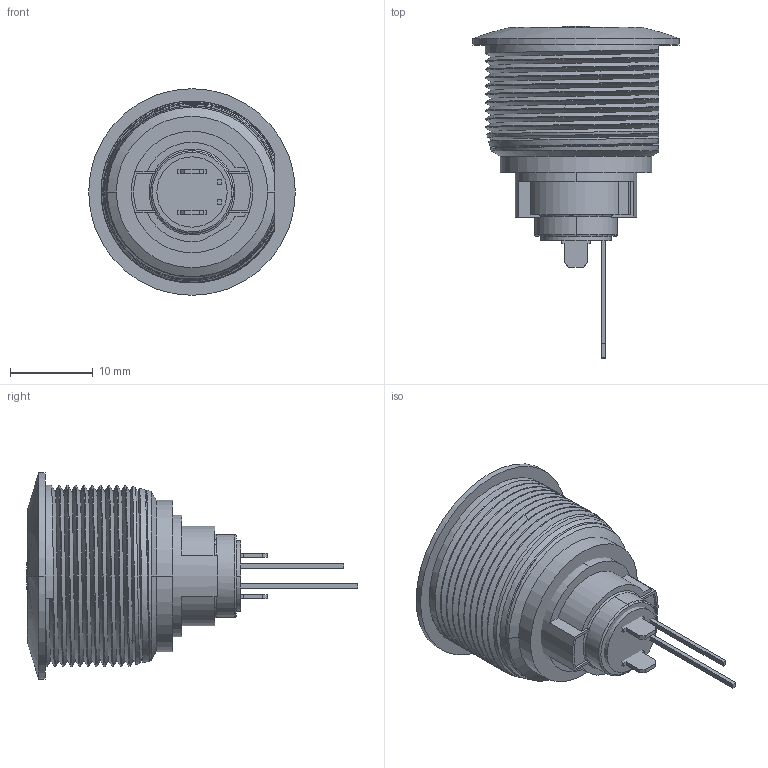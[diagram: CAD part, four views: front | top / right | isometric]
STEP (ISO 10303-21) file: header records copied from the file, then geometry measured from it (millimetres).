
FILE_DESCRIPTION((''),'2;1');
FILE_NAME('AV031LVEA2','2014-12-22T',('brevel'),(''),'PRO/ENGINEER BY PARAMETRIC TECHNOLOGY CORPORATION, 2013410','PRO/ENGINEER BY PARAMETRIC TECHNOLOGY CORPORATION, 2013410','');
FILE_SCHEMA(('CONFIG_CONTROL_DESIGN'));
Length unit declared in the file: millimetre
Products named in the file (1): AV031LVEA2
Bounding box: 25 x 40.16 x 25 mm (x, y, z)
Surface area: 3780.3 mm2 (no closed solid volume)
Topology: 0 solids, 9 shells, 133 faces, 444 edges, 317 vertices
Faces by surface type: plane 58, bspline 32, cylinder 27, cone 6, torus 6, sphere 4
Entity records: 9971 total; most frequent: CARTESIAN_POINT 6371, ORIENTED_EDGE 815, DIRECTION 605, EDGE_CURVE 440, VERTEX_POINT 317, VECTOR 205, LINE 205, AXIS2_PLACEMENT_3D 200
